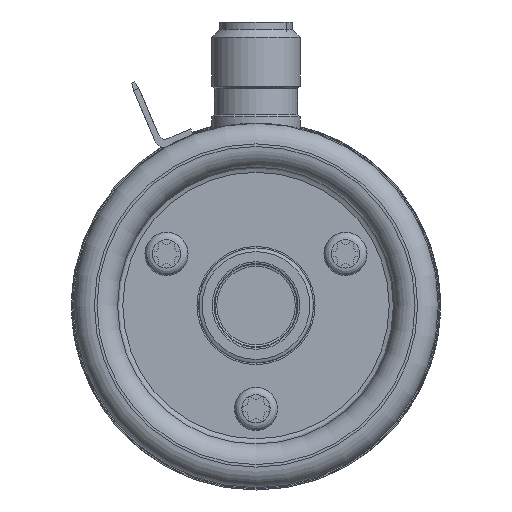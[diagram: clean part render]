
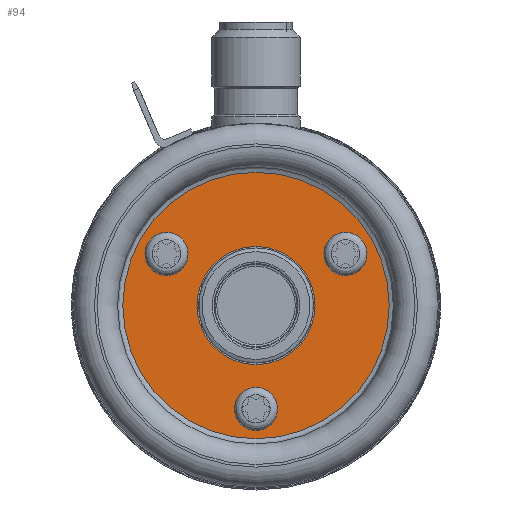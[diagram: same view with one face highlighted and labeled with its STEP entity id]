
A CAD part, front view. The second image highlights one B-rep face of the part: STEP entity #94.
In plain terms, the highlighted planar face has unit normal (0, -1, 0).
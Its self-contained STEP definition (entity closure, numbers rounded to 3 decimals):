
#94 = ADVANCED_FACE( '', ( #315, #316, #317, #318, #319 ), #320, .F. );
#315 = FACE_BOUND( '', #745, .T. );
#316 = FACE_BOUND( '', #746, .T. );
#317 = FACE_BOUND( '', #747, .T. );
#318 = FACE_BOUND( '', #748, .T. );
#319 = FACE_OUTER_BOUND( '', #749, .T. );
#320 = PLANE( '', #750 );
#745 = EDGE_LOOP( '', ( #1284 ) );
#746 = EDGE_LOOP( '', ( #1285 ) );
#747 = EDGE_LOOP( '', ( #1286 ) );
#748 = EDGE_LOOP( '', ( #1287 ) );
#749 = EDGE_LOOP( '', ( #1288 ) );
#750 = AXIS2_PLACEMENT_3D( '', #1289, #1290, #1291 );
#1284 = ORIENTED_EDGE( '', *, *, #2697, .F. );
#1285 = ORIENTED_EDGE( '', *, *, #2698, .F. );
#1286 = ORIENTED_EDGE( '', *, *, #2699, .F. );
#1287 = ORIENTED_EDGE( '', *, *, #2700, .F. );
#1288 = ORIENTED_EDGE( '', *, *, #2701, .T. );
#1289 = CARTESIAN_POINT( '', ( 18.05, -22.05, 0. ) );
#1290 = DIRECTION( '', ( 0., 1., 0. ) );
#1291 = DIRECTION( '', ( 0., 0., 1. ) );
#2697 = EDGE_CURVE( '', #3241, #3241, #3242, .F. );
#2698 = EDGE_CURVE( '', #3243, #3243, #3244, .F. );
#2699 = EDGE_CURVE( '', #3245, #3245, #3246, .F. );
#2700 = EDGE_CURVE( '', #3247, #3247, #3248, .F. );
#2701 = EDGE_CURVE( '', #3249, #3249, #3250, .T. );
#3241 = VERTEX_POINT( '', #4251 );
#3242 = CIRCLE( '', #4252, 8. );
#3243 = VERTEX_POINT( '', #4253 );
#3244 = CIRCLE( '', #4254, 2.92 );
#3245 = VERTEX_POINT( '', #4255 );
#3246 = CIRCLE( '', #4256, 2.92 );
#3247 = VERTEX_POINT( '', #4257 );
#3248 = CIRCLE( '', #4258, 2.92 );
#3249 = VERTEX_POINT( '', #4259 );
#3250 = CIRCLE( '', #4260, 18.05 );
#4251 = CARTESIAN_POINT( '', ( 0., -22.05, 8. ) );
#4252 = AXIS2_PLACEMENT_3D( '', #5349, #5350, #5351 );
#4253 = CARTESIAN_POINT( '', ( 12.124, -22.05, 9.92 ) );
#4254 = AXIS2_PLACEMENT_3D( '', #5352, #5353, #5354 );
#4255 = CARTESIAN_POINT( '', ( -12.124, -22.05, 9.92 ) );
#4256 = AXIS2_PLACEMENT_3D( '', #5355, #5356, #5357 );
#4257 = CARTESIAN_POINT( '', ( 0., -22.05, -11.08 ) );
#4258 = AXIS2_PLACEMENT_3D( '', #5358, #5359, #5360 );
#4259 = CARTESIAN_POINT( '', ( 0., -22.05, -18.05 ) );
#4260 = AXIS2_PLACEMENT_3D( '', #5361, #5362, #5363 );
#5349 = CARTESIAN_POINT( '', ( 0., -22.05, 0. ) );
#5350 = DIRECTION( '', ( 0., 1., 0. ) );
#5351 = DIRECTION( '', ( 0., 0., 1. ) );
#5352 = CARTESIAN_POINT( '', ( 12.124, -22.05, 7. ) );
#5353 = DIRECTION( '', ( 0., 1., 0. ) );
#5354 = DIRECTION( '', ( 0., 0., 1. ) );
#5355 = CARTESIAN_POINT( '', ( -12.124, -22.05, 7. ) );
#5356 = DIRECTION( '', ( 0., 1., 0. ) );
#5357 = DIRECTION( '', ( 0., 0., 1. ) );
#5358 = CARTESIAN_POINT( '', ( 0., -22.05, -14. ) );
#5359 = DIRECTION( '', ( 0., 1., 0. ) );
#5360 = DIRECTION( '', ( 0., 0., 1. ) );
#5361 = CARTESIAN_POINT( '', ( 0., -22.05, 0. ) );
#5362 = DIRECTION( '', ( 0., -1., 0. ) );
#5363 = DIRECTION( '', ( 0., 0., -1. ) );
